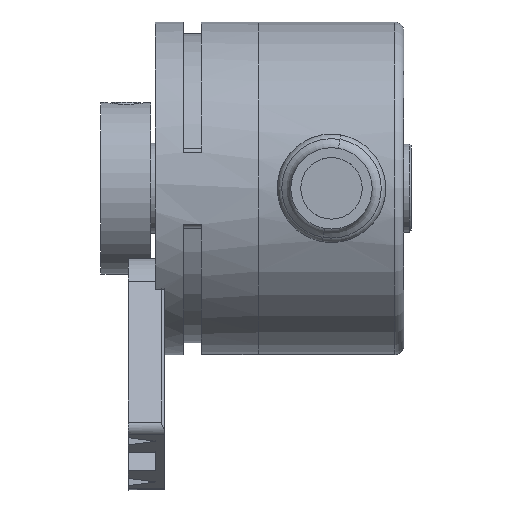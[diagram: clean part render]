
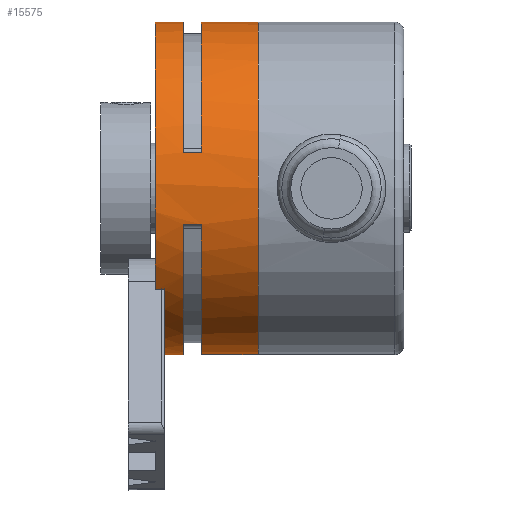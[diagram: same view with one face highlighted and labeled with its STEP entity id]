
A CAD part, front view. The second image highlights one B-rep face of the part: STEP entity #15575.
In plain terms, the highlighted cylindrical face has radius 18.4 mm (diameter 36.8 mm), a partial arc.
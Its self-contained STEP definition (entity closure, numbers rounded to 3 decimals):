
#10107 = CARTESIAN_POINT ( 'NONE',  ( 81.16, -17.498, -18.4 ) ) ;
#10108 = DIRECTION ( 'NONE',  ( -1., 0., 0. ) ) ;
#10109 = VECTOR ( 'NONE', #10108, 1000. ) ;
#10110 = CARTESIAN_POINT ( 'NONE',  ( 76.76, -17.498, -18.4 ) ) ;
#10111 = LINE ( 'NONE', #10110, #10109 ) ;
#10121 = CARTESIAN_POINT ( 'NONE',  ( 84.26, -17.498, -18.4 ) ) ;
#10251 = CARTESIAN_POINT ( 'NONE',  ( 92.56, -17.498, -18.4 ) ) ;
#10252 = CARTESIAN_POINT ( 'NONE',  ( 92.56, -17.498, 18.4 ) ) ;
#10253 = CARTESIAN_POINT ( 'NONE',  ( 86.26, -17.498, -18.4 ) ) ;
#10255 = CARTESIAN_POINT ( 'NONE',  ( 81.16, -17.498, 18.4 ) ) ;
#10292 = DIRECTION ( 'NONE',  ( -1., 0., 0. ) ) ;
#10293 = VECTOR ( 'NONE', #10292, 1000. ) ;
#10294 = CARTESIAN_POINT ( 'NONE',  ( 76.76, -17.498, 18.4 ) ) ;
#10295 = LINE ( 'NONE', #10294, #10293 ) ;
#10297 = CARTESIAN_POINT ( 'NONE',  ( 84.26, -17.498, 18.4 ) ) ;
#10298 = DIRECTION ( 'NONE',  ( -1., 0., 0. ) ) ;
#10299 = VECTOR ( 'NONE', #10298, 1000. ) ;
#10300 = CARTESIAN_POINT ( 'NONE',  ( 76.76, -17.498, 18.4 ) ) ;
#10301 = LINE ( 'NONE', #10300, #10299 ) ;
#10304 = CARTESIAN_POINT ( 'NONE',  ( 86.26, -17.498, 18.4 ) ) ;
#10322 = DIRECTION ( 'NONE',  ( -1., 0., 0. ) ) ;
#10323 = VECTOR ( 'NONE', #10322, 1000. ) ;
#10324 = CARTESIAN_POINT ( 'NONE',  ( 76.76, -17.498, -18.4 ) ) ;
#10325 = LINE ( 'NONE', #10324, #10323 ) ;
#12996 = VERTEX_POINT ( 'NONE', #10121 ) ;
#13001 = EDGE_CURVE ( 'NONE', #12996, #13002, #10111, .T. ) ;
#13002 = VERTEX_POINT ( 'NONE', #10107 ) ;
#13048 = VERTEX_POINT ( 'NONE', #10255 ) ;
#13051 = VERTEX_POINT ( 'NONE', #10253 ) ;
#13052 = VERTEX_POINT ( 'NONE', #10252 ) ;
#13053 = VERTEX_POINT ( 'NONE', #10251 ) ;
#13057 = VERTEX_POINT ( 'NONE', #10304 ) ;
#13063 = EDGE_CURVE ( 'NONE', #13064, #13048, #10301, .T. ) ;
#13064 = VERTEX_POINT ( 'NONE', #10297 ) ;
#13065 = EDGE_CURVE ( 'NONE', #13052, #13057, #10295, .T. ) ;
#13072 = EDGE_CURVE ( 'NONE', #13053, #13051, #10325, .T. ) ;
#15571 = EDGE_CURVE ( 'NONE', #13053, #13052, #36117, .T. ) ;
#15575 = ADVANCED_FACE ( 'NONE', ( #36113 ), #36146, .T. ) ;
#15576 = EDGE_LOOP ( 'NONE', ( #15577, #15578, #15666, #15713, #15663, #15726, #15729, #15730, #15718, #15721, #15768, #15771, #15773, #15774, #15777, #15780 ) ) ;
#15577 = ORIENTED_EDGE ( 'NONE', *, *, #13072, .F. ) ;
#15578 = ORIENTED_EDGE ( 'NONE', *, *, #15571, .T. ) ;
#15655 = EDGE_CURVE ( 'NONE', #15779, #13051, #36327, .T. ) ;
#15662 = EDGE_CURVE ( 'NONE', #13057, #15665, #36350, .T. ) ;
#15663 = ORIENTED_EDGE ( 'NONE', *, *, #15725, .T. ) ;
#15665 = VERTEX_POINT ( 'NONE', #36351 ) ;
#15666 = ORIENTED_EDGE ( 'NONE', *, *, #13065, .T. ) ;
#15713 = ORIENTED_EDGE ( 'NONE', *, *, #15662, .T. ) ;
#15718 = ORIENTED_EDGE ( 'NONE', *, *, #15719, .F. ) ;
#15719 = EDGE_CURVE ( 'NONE', #15720, #15732, #36434, .T. ) ;
#15720 = VERTEX_POINT ( 'NONE', #36430 ) ;
#15721 = ORIENTED_EDGE ( 'NONE', *, *, #15723, .F. ) ;
#15723 = EDGE_CURVE ( 'NONE', #15724, #15720, #36488, .T. ) ;
#15724 = VERTEX_POINT ( 'NONE', #36484 ) ;
#15725 = EDGE_CURVE ( 'NONE', #15665, #15781, #36483, .T. ) ;
#15726 = ORIENTED_EDGE ( 'NONE', *, *, #15727, .F. ) ;
#15727 = EDGE_CURVE ( 'NONE', #13064, #15781, #36479, .T. ) ;
#15729 = ORIENTED_EDGE ( 'NONE', *, *, #13063, .T. ) ;
#15730 = ORIENTED_EDGE ( 'NONE', *, *, #15731, .F. ) ;
#15731 = EDGE_CURVE ( 'NONE', #15732, #13048, #36474, .T. ) ;
#15732 = VERTEX_POINT ( 'NONE', #36469 ) ;
#15768 = ORIENTED_EDGE ( 'NONE', *, *, #15769, .T. ) ;
#15769 = EDGE_CURVE ( 'NONE', #15724, #15770, #36569, .T. ) ;
#15770 = VERTEX_POINT ( 'NONE', #36565 ) ;
#15771 = ORIENTED_EDGE ( 'NONE', *, *, #15772, .F. ) ;
#15772 = EDGE_CURVE ( 'NONE', #13002, #15770, #36562, .T. ) ;
#15773 = ORIENTED_EDGE ( 'NONE', *, *, #13001, .F. ) ;
#15774 = ORIENTED_EDGE ( 'NONE', *, *, #15775, .F. ) ;
#15775 = EDGE_CURVE ( 'NONE', #15776, #12996, #36556, .T. ) ;
#15776 = VERTEX_POINT ( 'NONE', #36616 ) ;
#15777 = ORIENTED_EDGE ( 'NONE', *, *, #15778, .F. ) ;
#15778 = EDGE_CURVE ( 'NONE', #15779, #15776, #36615, .T. ) ;
#15779 = VERTEX_POINT ( 'NONE', #36611 ) ;
#15780 = ORIENTED_EDGE ( 'NONE', *, *, #15655, .T. ) ;
#15781 = VERTEX_POINT ( 'NONE', #36610 ) ;
#36113 = FACE_OUTER_BOUND ( 'NONE', #15576, .T. ) ;
#36114 = DIRECTION ( 'NONE',  ( 0., 0., 1. ) ) ;
#36115 = DIRECTION ( 'NONE',  ( -1., 0., 0. ) ) ;
#36116 = AXIS2_PLACEMENT_3D ( 'NONE', #36123, #36115, #36114 ) ;
#36117 = CIRCLE ( 'NONE', #36116, 18.4 ) ;
#36123 = CARTESIAN_POINT ( 'NONE',  ( 92.56, -17.498, 0. ) ) ;
#36143 = DIRECTION ( 'NONE',  ( 0., 0., 1. ) ) ;
#36144 = DIRECTION ( 'NONE',  ( -1., 0., 0. ) ) ;
#36145 = AXIS2_PLACEMENT_3D ( 'NONE', #36148, #36144, #36143 ) ;
#36146 = CYLINDRICAL_SURFACE ( 'NONE', #36145, 18.4 ) ;
#36148 = CARTESIAN_POINT ( 'NONE',  ( 76.76, -17.498, 0. ) ) ;
#36323 = DIRECTION ( 'NONE',  ( 0., 0., -1. ) ) ;
#36324 = DIRECTION ( 'NONE',  ( 1., 0., 0. ) ) ;
#36325 = CARTESIAN_POINT ( 'NONE',  ( 86.26, -17.498, 0. ) ) ;
#36326 = AXIS2_PLACEMENT_3D ( 'NONE', #36325, #36324, #36323 ) ;
#36327 = CIRCLE ( 'NONE', #36326, 18.4 ) ;
#36346 = DIRECTION ( 'NONE',  ( 0., 0., -1. ) ) ;
#36347 = DIRECTION ( 'NONE',  ( 1., 0., 0. ) ) ;
#36348 = CARTESIAN_POINT ( 'NONE',  ( 86.26, -17.498, 0. ) ) ;
#36349 = AXIS2_PLACEMENT_3D ( 'NONE', #36348, #36347, #36346 ) ;
#36350 = CIRCLE ( 'NONE', #36349, 18.4 ) ;
#36351 = CARTESIAN_POINT ( 'NONE',  ( 86.26, -35.458, 4. ) ) ;
#36429 = CARTESIAN_POINT ( 'NONE',  ( 82.16, -17.498, 0. ) ) ;
#36430 = CARTESIAN_POINT ( 'NONE',  ( 82.16, -32.069, -11.237 ) ) ;
#36431 = DIRECTION ( 'NONE',  ( -1., 0., 0. ) ) ;
#36432 = VECTOR ( 'NONE', #36431, 1000. ) ;
#36433 = CARTESIAN_POINT ( 'NONE',  ( 82.16, -32.069, -11.237 ) ) ;
#36434 = LINE ( 'NONE', #36433, #36432 ) ;
#36469 = CARTESIAN_POINT ( 'NONE',  ( 81.16, -32.069, -11.237 ) ) ;
#36470 = DIRECTION ( 'NONE',  ( 0., 0., 1. ) ) ;
#36471 = DIRECTION ( 'NONE',  ( -1., 0., 0. ) ) ;
#36472 = CARTESIAN_POINT ( 'NONE',  ( 81.16, -17.498, 0. ) ) ;
#36473 = AXIS2_PLACEMENT_3D ( 'NONE', #36472, #36471, #36470 ) ;
#36474 = CIRCLE ( 'NONE', #36473, 18.4 ) ;
#36475 = DIRECTION ( 'NONE',  ( 0., 0., -1. ) ) ;
#36476 = DIRECTION ( 'NONE',  ( 1., 0., 0. ) ) ;
#36477 = CARTESIAN_POINT ( 'NONE',  ( 84.26, -17.498, 0. ) ) ;
#36478 = AXIS2_PLACEMENT_3D ( 'NONE', #36477, #36476, #36475 ) ;
#36479 = CIRCLE ( 'NONE', #36478, 18.4 ) ;
#36480 = DIRECTION ( 'NONE',  ( -1., 0., 0. ) ) ;
#36481 = VECTOR ( 'NONE', #36480, 1000. ) ;
#36482 = CARTESIAN_POINT ( 'NONE',  ( 86.26, -35.458, 4. ) ) ;
#36483 = LINE ( 'NONE', #36482, #36481 ) ;
#36484 = CARTESIAN_POINT ( 'NONE',  ( 82.16, -19.944, -18.237 ) ) ;
#36485 = DIRECTION ( 'NONE',  ( 0., 0., 1. ) ) ;
#36486 = DIRECTION ( 'NONE',  ( -1., 0., 0. ) ) ;
#36487 = AXIS2_PLACEMENT_3D ( 'NONE', #36429, #36486, #36485 ) ;
#36488 = CIRCLE ( 'NONE', #36487, 18.4 ) ;
#36553 = DIRECTION ( 'NONE',  ( 0., 0., -1. ) ) ;
#36554 = DIRECTION ( 'NONE',  ( 1., 0., 0. ) ) ;
#36555 = AXIS2_PLACEMENT_3D ( 'NONE', #36563, #36554, #36553 ) ;
#36556 = CIRCLE ( 'NONE', #36555, 18.4 ) ;
#36558 = DIRECTION ( 'NONE',  ( 0., 0., 1. ) ) ;
#36559 = DIRECTION ( 'NONE',  ( -1., 0., 0. ) ) ;
#36560 = CARTESIAN_POINT ( 'NONE',  ( 81.16, -17.498, 0. ) ) ;
#36561 = AXIS2_PLACEMENT_3D ( 'NONE', #36560, #36559, #36558 ) ;
#36562 = CIRCLE ( 'NONE', #36561, 18.4 ) ;
#36563 = CARTESIAN_POINT ( 'NONE',  ( 84.26, -17.498, 0. ) ) ;
#36565 = CARTESIAN_POINT ( 'NONE',  ( 81.16, -19.944, -18.237 ) ) ;
#36566 = DIRECTION ( 'NONE',  ( -1., 0., 0. ) ) ;
#36567 = VECTOR ( 'NONE', #36566, 1000. ) ;
#36568 = CARTESIAN_POINT ( 'NONE',  ( 82.16, -19.944, -18.237 ) ) ;
#36569 = LINE ( 'NONE', #36568, #36567 ) ;
#36610 = CARTESIAN_POINT ( 'NONE',  ( 84.26, -35.458, 4. ) ) ;
#36611 = CARTESIAN_POINT ( 'NONE',  ( 86.26, -35.458, -4. ) ) ;
#36612 = DIRECTION ( 'NONE',  ( -1., 0., 0. ) ) ;
#36613 = VECTOR ( 'NONE', #36612, 1000. ) ;
#36614 = CARTESIAN_POINT ( 'NONE',  ( 86.26, -35.458, -4. ) ) ;
#36615 = LINE ( 'NONE', #36614, #36613 ) ;
#36616 = CARTESIAN_POINT ( 'NONE',  ( 84.26, -35.458, -4. ) ) ;
